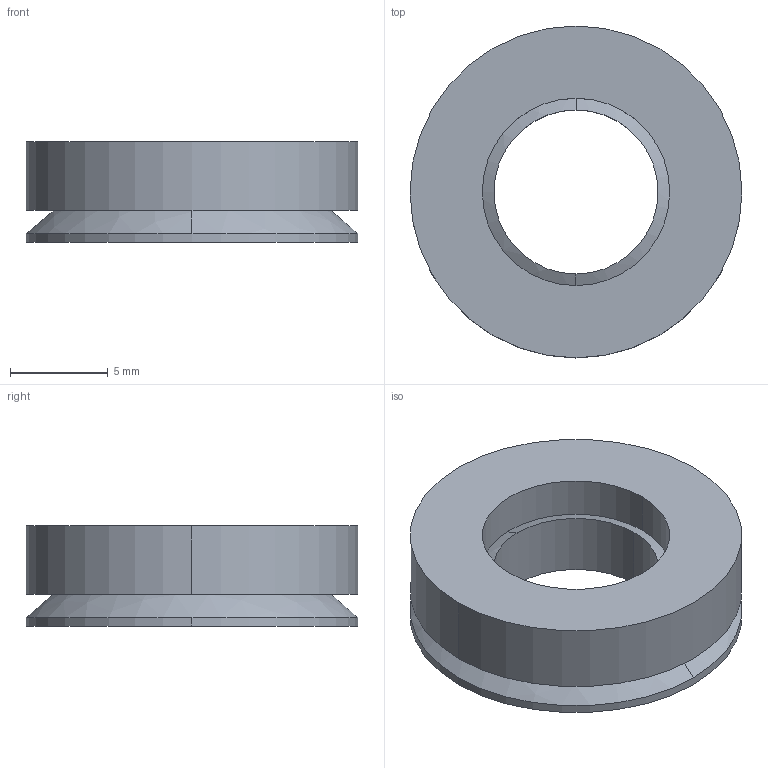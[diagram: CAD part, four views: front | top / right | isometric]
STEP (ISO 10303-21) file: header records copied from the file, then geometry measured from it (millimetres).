
FILE_DESCRIPTION (( 'STEP AP214' ), '1' );
FILE_NAME ('PLF01-20.STEP', '2004-09-02T07:01:22', ( 'Mitarbeiter' ), ( 'Firma' ), 'SwSTEP 2.0', 'SolidWorks 2001287', '' );
FILE_SCHEMA (( 'AUTOMOTIVE_DESIGN' ));
Length unit declared in the file: millimetre
Products named in the file (3): PLF01-20; SocketWasher; BallWasher
Assembly tree (2 placements, depth 2):
  PLF01-20
    BallWasher
    SocketWasher
Bounding box: 17 x 17 x 5.13 mm (x, y, z)
Volume: 802.4 mm3; surface area: 1061.2 mm2
Topology: 2 solids, 2 shells, 15 faces, 34 edges, 22 vertices
Faces by surface type: cylinder 8, plane 3, sphere 2, cone 2
Entity records: 522 total; most frequent: DIRECTION 96, CARTESIAN_POINT 75, ORIENTED_EDGE 68, AXIS2_PLACEMENT_3D 43, EDGE_CURVE 34, CIRCLE 24, VERTEX_POINT 22, EDGE_LOOP 18
